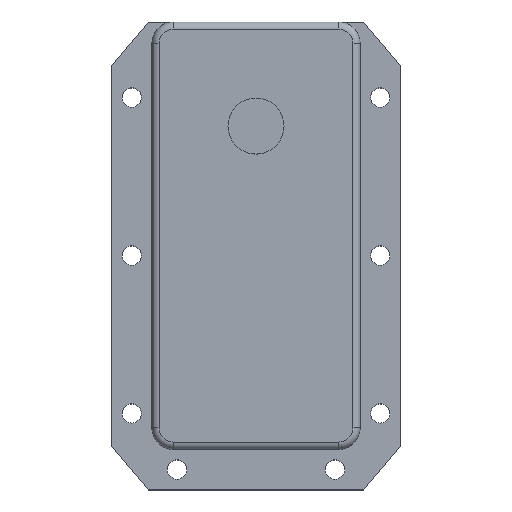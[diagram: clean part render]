
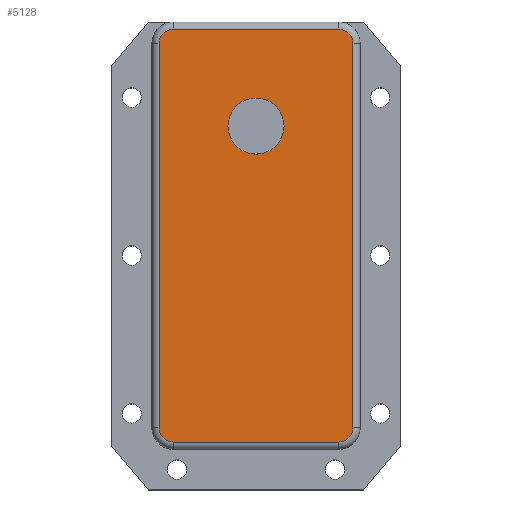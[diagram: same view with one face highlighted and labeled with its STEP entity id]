
A CAD part, top view. The second image highlights one B-rep face of the part: STEP entity #5128.
In plain terms, the highlighted planar face has unit normal (0, 0, 1).
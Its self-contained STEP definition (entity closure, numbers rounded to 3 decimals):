
#2=CARTESIAN_POINT('',(11.5,11.5,23.));
#3=DIRECTION('',(0.,0.,1.));
#4=DIRECTION('',(1.,0.,0.));
#5=AXIS2_PLACEMENT_3D('',#2,#3,#4);
#7=DIRECTION('',(0.,1.,0.));
#8=VECTOR('',#7,53.5);
#9=CARTESIAN_POINT('',(13.5,-42.,23.));
#10=LINE('',#9,#8);
#11=CARTESIAN_POINT('',(11.5,-42.,23.));
#12=DIRECTION('',(0.,0.,1.));
#13=DIRECTION('',(0.,-1.,0.));
#14=AXIS2_PLACEMENT_3D('',#11,#12,#13);
#16=DIRECTION('',(1.,0.,0.));
#17=VECTOR('',#16,23.);
#18=CARTESIAN_POINT('',(-11.5,-44.,23.));
#19=LINE('',#18,#17);
#20=CARTESIAN_POINT('',(-11.5,-42.,23.));
#21=DIRECTION('',(0.,0.,1.));
#22=DIRECTION('',(-1.,0.,0.));
#23=AXIS2_PLACEMENT_3D('',#20,#21,#22);
#25=DIRECTION('',(0.,-1.,0.));
#26=VECTOR('',#25,53.5);
#27=CARTESIAN_POINT('',(-13.5,11.5,23.));
#28=LINE('',#27,#26);
#29=CARTESIAN_POINT('',(-11.5,11.5,23.));
#30=DIRECTION('',(0.,0.,1.));
#31=DIRECTION('',(0.,1.,0.));
#32=AXIS2_PLACEMENT_3D('',#29,#30,#31);
#34=DIRECTION('',(-1.,0.,0.));
#35=VECTOR('',#34,23.);
#36=CARTESIAN_POINT('',(11.5,13.5,23.));
#37=LINE('',#36,#35);
#38=CARTESIAN_POINT('',(0.,0.,23.));
#39=DIRECTION('',(0.,0.,1.));
#40=DIRECTION('',(1.,0.,0.));
#41=AXIS2_PLACEMENT_3D('',#38,#39,#40);
#43=CARTESIAN_POINT('',(0.,0.,23.));
#44=DIRECTION('',(0.,0.,1.));
#45=DIRECTION('',(-1.,0.,0.));
#46=AXIS2_PLACEMENT_3D('',#43,#44,#45);
#4944=CARTESIAN_POINT('',(13.5,11.5,23.));
#4945=CARTESIAN_POINT('',(11.5,13.5,23.));
#4946=VERTEX_POINT('',#4944);
#4947=VERTEX_POINT('',#4945);
#4952=CARTESIAN_POINT('',(-11.5,13.5,23.));
#4953=VERTEX_POINT('',#4952);
#4956=CARTESIAN_POINT('',(-13.5,11.5,23.));
#4957=VERTEX_POINT('',#4956);
#4960=CARTESIAN_POINT('',(-13.5,-42.,23.));
#4961=VERTEX_POINT('',#4960);
#4964=CARTESIAN_POINT('',(-11.5,-44.,23.));
#4965=VERTEX_POINT('',#4964);
#4968=CARTESIAN_POINT('',(11.5,-44.,23.));
#4969=VERTEX_POINT('',#4968);
#4972=CARTESIAN_POINT('',(13.5,-42.,23.));
#4973=VERTEX_POINT('',#4972);
#5095=CARTESIAN_POINT('',(3.9,0.,23.));
#5096=CARTESIAN_POINT('',(-3.9,0.,23.));
#5097=VERTEX_POINT('',#5095);
#5098=VERTEX_POINT('',#5096);
#5099=CARTESIAN_POINT('',(0.,0.,23.));
#5100=DIRECTION('',(0.,0.,1.));
#5101=DIRECTION('',(1.,0.,0.));
#5102=AXIS2_PLACEMENT_3D('',#5099,#5100,#5101);
#5103=PLANE('',#5102);
#5105=ORIENTED_EDGE('',*,*,#5104,.F.);
#5107=ORIENTED_EDGE('',*,*,#5106,.F.);
#5109=ORIENTED_EDGE('',*,*,#5108,.F.);
#5111=ORIENTED_EDGE('',*,*,#5110,.F.);
#5113=ORIENTED_EDGE('',*,*,#5112,.F.);
#5115=ORIENTED_EDGE('',*,*,#5114,.F.);
#5117=ORIENTED_EDGE('',*,*,#5116,.F.);
#5119=ORIENTED_EDGE('',*,*,#5118,.F.);
#5120=EDGE_LOOP('',(#5105,#5107,#5109,#5111,#5113,#5115,#5117,#5119));
#5121=FACE_OUTER_BOUND('',#5120,.F.);
#5123=ORIENTED_EDGE('',*,*,#5122,.T.);
#5125=ORIENTED_EDGE('',*,*,#5124,.T.);
#5126=EDGE_LOOP('',(#5123,#5125));
#5127=FACE_BOUND('',#5126,.F.);
#5128=ADVANCED_FACE('',(#5121,#5127),#5103,.T.);
#6=CIRCLE('',#5,2.);
#15=CIRCLE('',#14,2.);
#24=CIRCLE('',#23,2.);
#33=CIRCLE('',#32,2.);
#42=CIRCLE('',#41,3.9);
#47=CIRCLE('',#46,3.9);
#5104=EDGE_CURVE('',#4946,#4947,#6,.T.);
#5106=EDGE_CURVE('',#4973,#4946,#10,.T.);
#5108=EDGE_CURVE('',#4969,#4973,#15,.T.);
#5110=EDGE_CURVE('',#4965,#4969,#19,.T.);
#5112=EDGE_CURVE('',#4961,#4965,#24,.T.);
#5114=EDGE_CURVE('',#4957,#4961,#28,.T.);
#5116=EDGE_CURVE('',#4953,#4957,#33,.T.);
#5118=EDGE_CURVE('',#4947,#4953,#37,.T.);
#5122=EDGE_CURVE('',#5097,#5098,#42,.T.);
#5124=EDGE_CURVE('',#5098,#5097,#47,.T.);
